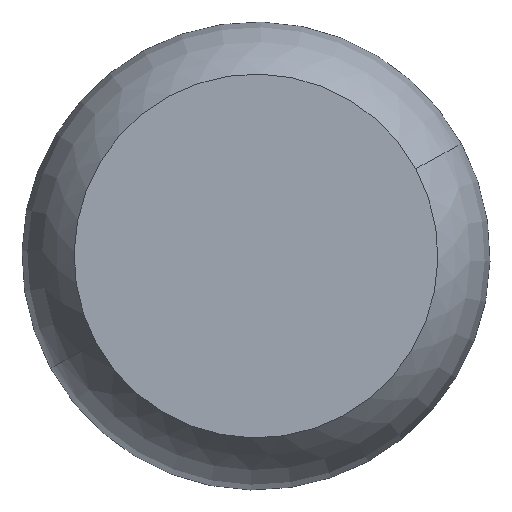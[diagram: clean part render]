
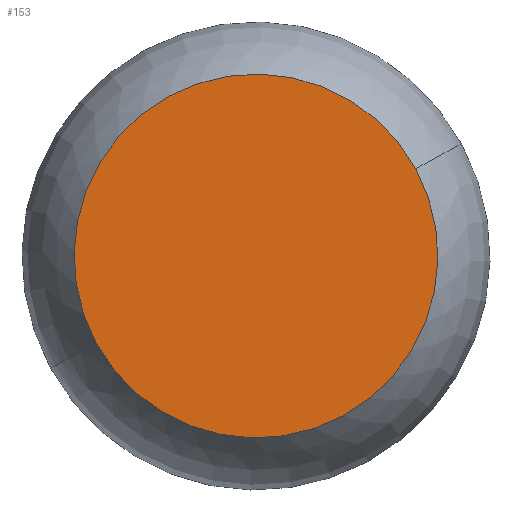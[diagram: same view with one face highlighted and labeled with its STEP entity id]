
A CAD part, front view. The second image highlights one B-rep face of the part: STEP entity #153.
In plain terms, the highlighted planar face has unit normal (0, -1, 0).
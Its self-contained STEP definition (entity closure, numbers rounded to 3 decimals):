
#66=CARTESIAN_POINT('Axis2P3D Location',(0.,0.,0.)) ;
#70=CARTESIAN_POINT('Vertex',(104.432,0.,57.052)) ;
#72=CARTESIAN_POINT('Vertex',(-104.432,0.,-57.052)) ;
#127=CARTESIAN_POINT('Axis2P3D Location',(0.,0.,0.)) ;
#144=CARTESIAN_POINT('Axis2P3D Location',(0.,0.,0.)) ;
#67=DIRECTION('Axis2P3D Direction',(0.,-1.,0.)) ;
#128=DIRECTION('Axis2P3D Direction',(0.,-1.,0.)) ;
#145=DIRECTION('Axis2P3D Direction',(0.,-1.,0.)) ;
#146=DIRECTION('Axis2P3D XDirection',(1.,0.,0.)) ;
#68=AXIS2_PLACEMENT_3D('Circle Axis2P3D',#66,#67,$) ;
#129=AXIS2_PLACEMENT_3D('Circle Axis2P3D',#127,#128,$) ;
#147=AXIS2_PLACEMENT_3D('Plane Axis2P3D',#144,#145,#146) ;
#150=ORIENTED_EDGE('',*,*,#74,.T.) ;
#151=ORIENTED_EDGE('',*,*,#131,.T.) ;
#153=ADVANCED_FACE('PartBody',(#152),#148,.T.) ;
#69=CIRCLE('generated circle',#68,119.) ;
#130=CIRCLE('generated circle',#129,119.) ;
#74=EDGE_CURVE('',#71,#73,#69,.T.) ;
#131=EDGE_CURVE('',#73,#71,#130,.T.) ;
#149=EDGE_LOOP('',(#150,#151)) ;
#152=FACE_OUTER_BOUND('',#149,.T.) ;
#148=PLANE('',#147) ;
#71=VERTEX_POINT('',#70) ;
#73=VERTEX_POINT('',#72) ;
